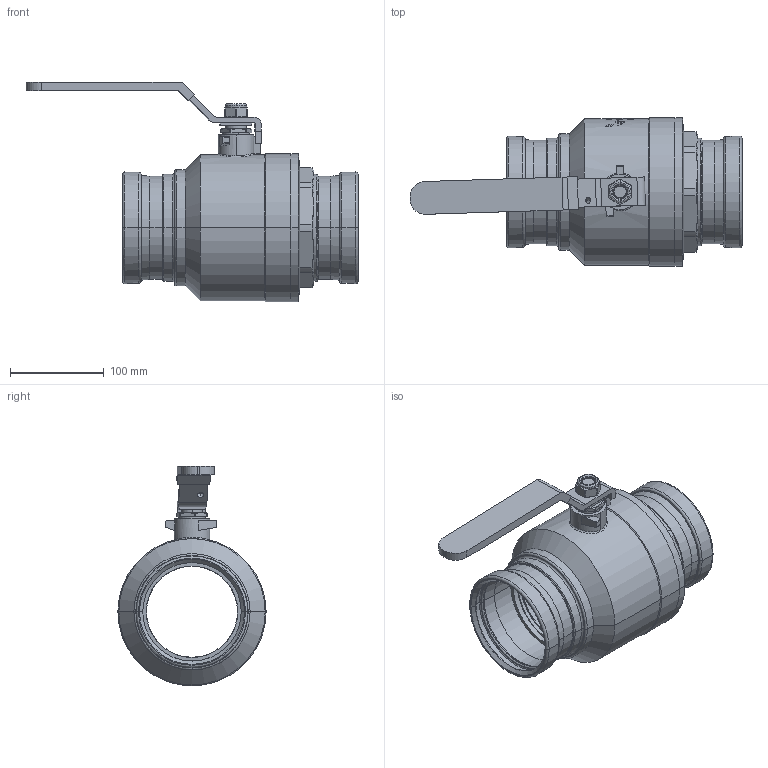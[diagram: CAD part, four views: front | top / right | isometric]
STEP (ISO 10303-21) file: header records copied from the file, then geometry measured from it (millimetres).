
FILE_DESCRIPTION(('Open CASCADE Model'),'2;1');
FILE_NAME('Open CASCADE Shape Model','2021-12-14T09:55:39',('Author'),( 'Open CASCADE'),'Open CASCADE STEP processor 7.3','Open CASCADE 7.3' ,'Unknown');
FILE_SCHEMA(('AUTOMOTIVE_DESIGN { 1 0 10303 214 1 1 1 1 }'));
Length unit declared in the file: millimetre
Products named in the file (14): Open CASCADE STEP translator 7.3 1; Open CASCADE STEP translator 7.3 1.1; Open CASCADE STEP translator 7.3 1.2; Open CASCADE STEP translator 7.3 1.3; Open CASCADE STEP translator 7.3 1.4; Open CASCADE STEP translator 7.3 1.5; Open CASCADE STEP translator 7.3 1.6; Open CASCADE STEP translator 7.3 1.7; Open CASCADE STEP translator 7.3 1.8; Open CASCADE STEP translator 7.3 1.9; Open CASCADE STEP translator 7.3 1.10; Open CASCADE STEP translator 7.3 1.11; Open CASCADE STEP translator 7.3 1.12; Open CASCADE STEP translator 7.3 1.13
Assembly tree (13 placements, depth 2):
  Open CASCADE STEP translator 7.3 1
    Open CASCADE STEP translator 7.3 1.1
    Open CASCADE STEP translator 7.3 1.2
    Open CASCADE STEP translator 7.3 1.3
    Open CASCADE STEP translator 7.3 1.4
    Open CASCADE STEP translator 7.3 1.5
    Open CASCADE STEP translator 7.3 1.6
    Open CASCADE STEP translator 7.3 1.7
    Open CASCADE STEP translator 7.3 1.8
    Open CASCADE STEP translator 7.3 1.9
    Open CASCADE STEP translator 7.3 1.10
    Open CASCADE STEP translator 7.3 1.11
    Open CASCADE STEP translator 7.3 1.12
    Open CASCADE STEP translator 7.3 1.13
Bounding box: 353.93 x 158 x 234.32 mm (x, y, z)
Volume: 1120512.5 mm3; surface area: 502437.3 mm2
Topology: 13 solids, 14 shells, 710 faces, 1813 edges, 1160 vertices
Faces by surface type: cylinder 248, plane 187, bspline 107, cone 91, torus 69, sphere 8
Entity records: 118526 total; most frequent: CARTESIAN_POINT 85360, DIRECTION 5306, ORIENTED_EDGE 3618, PCURVE 3618, DEFINITIONAL_REPRESENTATION 3618, LINE 2709, VECTOR 2709, EDGE_CURVE 1809
